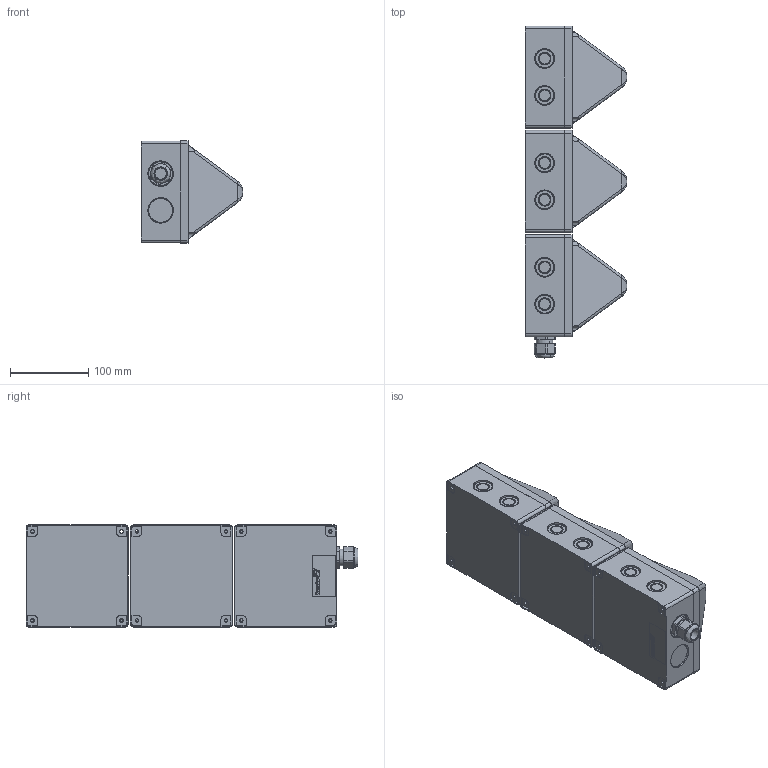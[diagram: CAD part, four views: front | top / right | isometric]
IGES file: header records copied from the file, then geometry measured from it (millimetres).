
Start section: SolidWorks IGES file using analytic representation for surfaces
Global section: file name: L:\3D Volumenmodelle\Quadro\Quadro LED TL (TrafficLight)\Quadro LED TL RD YE GN.IGS; native system: SolidWorks 2015; preprocessor: SolidWorks 2015; author: PDG_MM; date: 151210.144207; units: millimetre
Bounding box: 130 x 423.34 x 130.09 mm (x, y, z)
Surface area: 236369.9 mm2 (no closed solid volume)
Topology: 0 solids, 0 shells, 675 faces, 13384 edges, 13372 vertices
Faces by surface type: bspline 362, revolution 313
